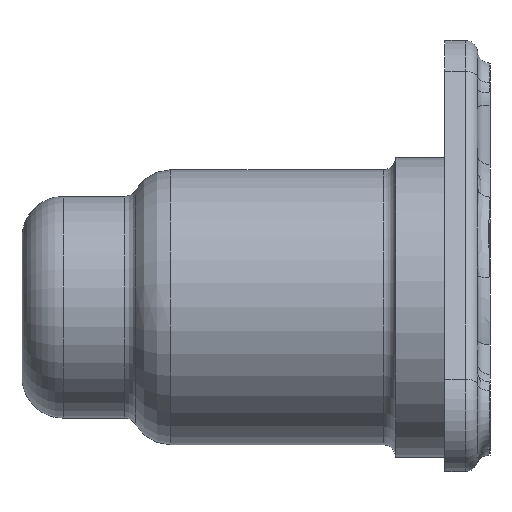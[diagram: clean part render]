
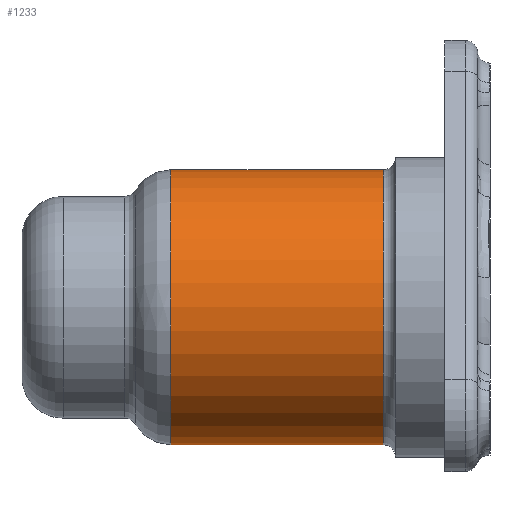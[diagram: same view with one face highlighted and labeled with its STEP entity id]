
A CAD part, front view. The second image highlights one B-rep face of the part: STEP entity #1233.
In plain terms, the highlighted cylindrical face has radius 33.5 mm (diameter 67 mm), a full revolution.
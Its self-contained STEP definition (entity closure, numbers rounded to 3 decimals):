
#150=CYLINDRICAL_SURFACE('',#1418,33.5);
#184=FACE_BOUND('',#425,.T.);
#302=FACE_OUTER_BOUND('',#424,.T.);
#424=EDGE_LOOP('',(#1112));
#425=EDGE_LOOP('',(#1113));
#533=CIRCLE('',#1417,33.5);
#534=CIRCLE('',#1419,33.5);
#642=VERTEX_POINT('',#2610);
#643=VERTEX_POINT('',#2613);
#803=EDGE_CURVE('',#642,#642,#533,.T.);
#804=EDGE_CURVE('',#643,#643,#534,.T.);
#1112=ORIENTED_EDGE('',*,*,#803,.F.);
#1113=ORIENTED_EDGE('',*,*,#804,.F.);
#1233=ADVANCED_FACE('',(#302,#184),#150,.T.);
#1417=AXIS2_PLACEMENT_3D('',#2611,#1808,#1809);
#1418=AXIS2_PLACEMENT_3D('',#2612,#1810,#1811);
#1419=AXIS2_PLACEMENT_3D('',#2614,#1812,#1813);
#1808=DIRECTION('center_axis',(-1.,0.,0.));
#1809=DIRECTION('ref_axis',(0.,1.,0.));
#1810=DIRECTION('center_axis',(1.,0.,0.));
#1811=DIRECTION('ref_axis',(0.,1.,0.));
#1812=DIRECTION('center_axis',(1.,0.,0.));
#1813=DIRECTION('ref_axis',(0.,-1.,0.));
#2610=CARTESIAN_POINT('',(-15.242,-33.5,0.));
#2611=CARTESIAN_POINT('Origin',(-15.242,0.,
0.));
#2612=CARTESIAN_POINT('Origin',(8.,0.,0.));
#2613=CARTESIAN_POINT('',(36.5,33.5,0.));
#2614=CARTESIAN_POINT('Origin',(36.5,0.,0.));
